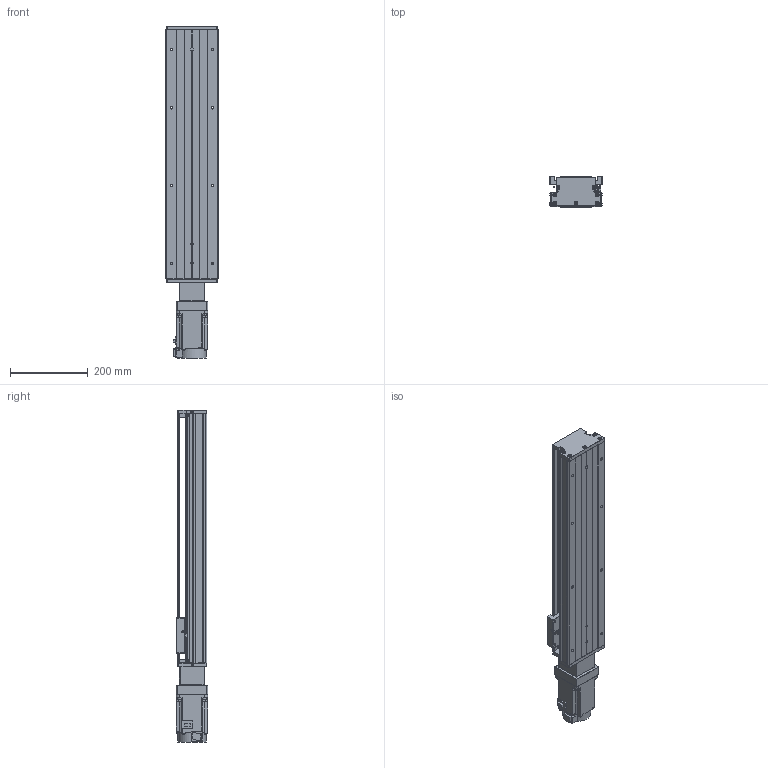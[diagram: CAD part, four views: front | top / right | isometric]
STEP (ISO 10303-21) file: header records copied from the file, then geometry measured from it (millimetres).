
FILE_DESCRIPTION (( 'STEP AP203' ), '1' );
FILE_NAME ('KTH130-500-BC-M75-C4.step', '2023-06-30T04:17:55', ( '微软用户' ), ( '微软中国' ), 'SwSTEP 2.0', 'SolidWorks 2020', '' );
FILE_SCHEMA (( 'CONFIG_CONTROL_DESIGN' ));
Length unit declared in the file: millimetre
Products named in the file (19): GB1155-6X6; GBT77-2000 M3×3; KTH130-500-BC-M75-C4; GBT70.1 M5℅16; す晦芛蹟隊 M3℅5; GBT 70.2-M3¡Á5_M3¡Á6; GBT 70.3-M3℅8; GTH14-001_500; CTHA60-017; CTHA86-006-1_M75; KTH130-002_KTH130-002; EE_SX911P_R; CTHA86-013; KTH130-004; hg-kn73j_-s100; CTHA60-016; CTHA86-027-1; KTH130-005; GBT 70.1-M3℅5
Assembly tree (52 placements, depth 2):
  KTH130-500-BC-M75-C4
    GTH14-001_500
    KTH130-002_KTH130-002
    KTH130-004
    KTH130-005
    GB1155-6X6  x2
    GBT70.1 M5℅16  x10
    GBT 70.2-M3¡Á5_M3¡Á6  x4
    CTHA60-017  x3
    EE_SX911P_R  x3
    CTHA60-016  x2
    GBT 70.1-M3℅5  x6
    GBT77-2000 M3×3  x6
    す晦芛蹟隊 M3℅5  x2
    GBT 70.3-M3℅8  x6
    CTHA86-006-1_M75
    CTHA86-013
    CTHA86-027-1
    hg-kn73j_-s100
Bounding box: 135 x 80.44 x 853.2 mm (x, y, z)
Volume: 4649059.3 mm3; surface area: 686882.8 mm2
Topology: 55 solids, 55 shells, 2250 faces, 5408 edges, 3367 vertices
Faces by surface type: plane 1240, cylinder 614, cone 280, torus 104, sphere 12
Entity records: 39846 total; most frequent: CARTESIAN_POINT 6581, DIRECTION 6551, ORIENTED_EDGE 6100, EDGE_CURVE 3050, AXIS2_PLACEMENT_3D 2273, LINE 2005, VECTOR 2005, VERTEX_POINT 1939
